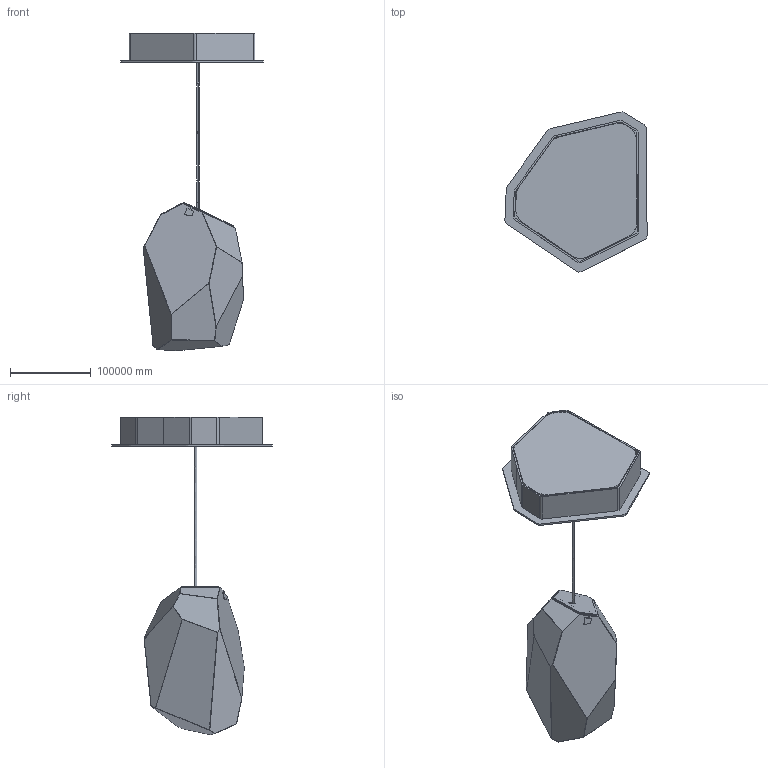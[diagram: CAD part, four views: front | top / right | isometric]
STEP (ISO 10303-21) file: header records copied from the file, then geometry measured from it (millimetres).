
FILE_DESCRIPTION(/* description */ (''),/* implementation_level */ '2;1');
FILE_NAME(/* name */ 'Crystal Rock 1',/* time_stamp */ '2019-01-21T09:12:12+01:00',/* author */ (''),/* organization */ (''),/* preprocessor_version */ 'ST-DEVELOPER v15',/* originating_system */ '',/* authorisation */ '');
FILE_SCHEMA (('AUTOMOTIVE_DESIGN'));
Length unit declared in the file: metre
Products named in the file (2): Document; Rock
Assembly tree (1 placements, depth 2):
  Document
    Rock
Bounding box: 176252.82 x 198403.38 x 393713.78 mm (x, y, z)
Volume: 578263168793965.9 mm3; surface area: 258603765755.3 mm2
Topology: 6 solids, 7 shells, 361 faces, 906 edges, 535 vertices
Faces by surface type: bspline 361
Entity records: 24925 total; most frequent: CARTESIAN_POINT 13791, B_SPLINE_CURVE_WITH_KNOTS 2174, ORIENTED_EDGE 1760, PCURVE 1760, DEFINITIONAL_REPRESENTATION 1760, SURFACE_CURVE 882, EDGE_CURVE 882, VERTEX_POINT 535
